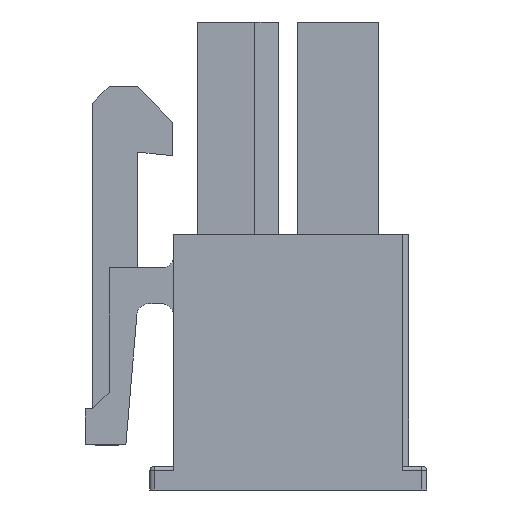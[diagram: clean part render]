
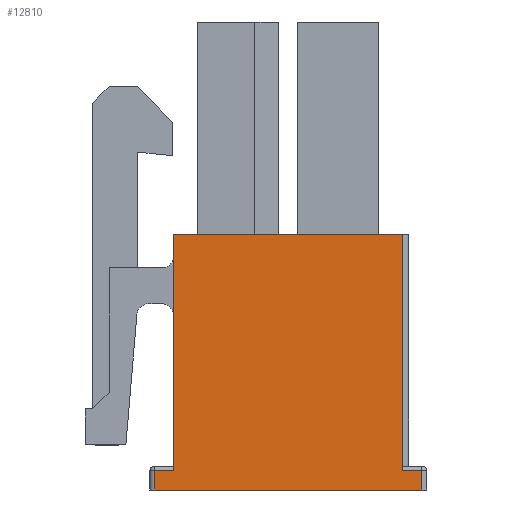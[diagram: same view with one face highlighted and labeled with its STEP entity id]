
A CAD part, left-side view. The second image highlights one B-rep face of the part: STEP entity #12810.
In plain terms, the highlighted planar face has unit normal (-1, 0, 0).
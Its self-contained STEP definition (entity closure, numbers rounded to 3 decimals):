
#1=DIRECTION('',(0.,1.,0.));
#2=VECTOR('',#1,0.8);
#3=CARTESIAN_POINT('',(-21.6,4.8,-9.9));
#4=LINE('',#3,#2);
#73=DIRECTION('',(0.,-1.,0.));
#74=VECTOR('',#73,11.2);
#75=CARTESIAN_POINT('',(-21.6,5.6,-10.7));
#76=LINE('',#75,#74);
#166=DIRECTION('',(0.,0.,-1.));
#167=VECTOR('',#166,9.9);
#168=CARTESIAN_POINT('',(-21.6,4.8,0.));
#169=LINE('',#168,#167);
#390=DIRECTION('',(0.,1.,0.));
#391=VECTOR('',#390,9.6);
#392=CARTESIAN_POINT('',(-21.6,-4.8,0.));
#393=LINE('',#392,#391);
#4618=DIRECTION('',(0.,0.,1.));
#4619=VECTOR('',#4618,9.9);
#4620=CARTESIAN_POINT('',(-21.6,-4.8,-9.9));
#4621=LINE('',#4620,#4619);
#4626=DIRECTION('',(0.,1.,0.));
#4627=VECTOR('',#4626,0.8);
#4628=CARTESIAN_POINT('',(-21.6,-5.6,-9.9));
#4629=LINE('',#4628,#4627);
#4684=DIRECTION('',(0.,0.,1.));
#4685=VECTOR('',#4684,0.8);
#4686=CARTESIAN_POINT('',(-21.6,-5.6,-10.7));
#4687=LINE('',#4686,#4685);
#8651=DIRECTION('',(0.,0.,-1.));
#8652=VECTOR('',#8651,0.8);
#8653=CARTESIAN_POINT('',(-21.6,5.6,-9.9));
#8654=LINE('',#8653,#8652);
#9615=CARTESIAN_POINT('',(-21.6,4.8,-9.9));
#9616=CARTESIAN_POINT('',(-21.6,5.6,-9.9));
#9617=VERTEX_POINT('',#9615);
#9618=VERTEX_POINT('',#9616);
#9619=CARTESIAN_POINT('',(-21.6,-4.8,0.));
#9620=CARTESIAN_POINT('',(-21.6,4.8,0.));
#9621=VERTEX_POINT('',#9619);
#9622=VERTEX_POINT('',#9620);
#9623=CARTESIAN_POINT('',(-21.6,-5.6,-9.9));
#9624=CARTESIAN_POINT('',(-21.6,-4.8,-9.9));
#9625=VERTEX_POINT('',#9623);
#9626=VERTEX_POINT('',#9624);
#9627=CARTESIAN_POINT('',(-21.6,-5.6,-10.7));
#9628=VERTEX_POINT('',#9627);
#9629=CARTESIAN_POINT('',(-21.6,5.6,-10.7));
#9630=VERTEX_POINT('',#9629);
#12787=CARTESIAN_POINT('',(-21.6,0.,-5.35));
#12788=DIRECTION('',(1.,0.,0.));
#12789=DIRECTION('',(0.,-1.,0.));
#12790=AXIS2_PLACEMENT_3D('',#12787,#12788,#12789);
#12791=PLANE('',#12790);
#12793=ORIENTED_EDGE('',*,*,#12792,.F.);
#12795=ORIENTED_EDGE('',*,*,#12794,.F.);
#12797=ORIENTED_EDGE('',*,*,#12796,.F.);
#12799=ORIENTED_EDGE('',*,*,#12798,.F.);
#12801=ORIENTED_EDGE('',*,*,#12800,.F.);
#12803=ORIENTED_EDGE('',*,*,#12802,.F.);
#12805=ORIENTED_EDGE('',*,*,#12804,.F.);
#12807=ORIENTED_EDGE('',*,*,#12806,.F.);
#12808=EDGE_LOOP('',(#12793,#12795,#12797,#12799,#12801,#12803,#12805,#12807));
#12809=FACE_OUTER_BOUND('',#12808,.F.);
#12810=ADVANCED_FACE('',(#12809),#12791,.F.);
#12792=EDGE_CURVE('',#9617,#9618,#4,.T.);
#12794=EDGE_CURVE('',#9622,#9617,#169,.T.);
#12796=EDGE_CURVE('',#9621,#9622,#393,.T.);
#12798=EDGE_CURVE('',#9626,#9621,#4621,.T.);
#12800=EDGE_CURVE('',#9625,#9626,#4629,.T.);
#12802=EDGE_CURVE('',#9628,#9625,#4687,.T.);
#12804=EDGE_CURVE('',#9630,#9628,#76,.T.);
#12806=EDGE_CURVE('',#9618,#9630,#8654,.T.);
